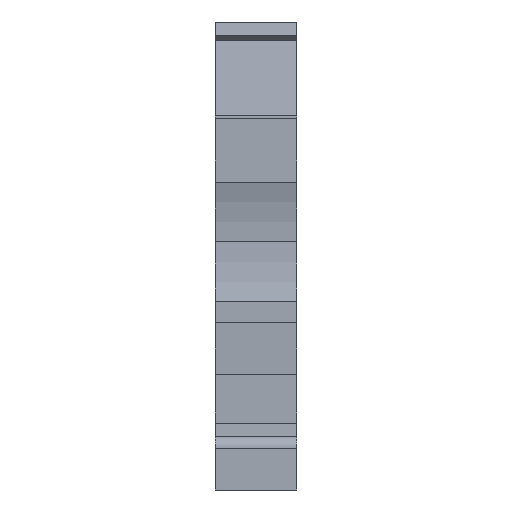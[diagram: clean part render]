
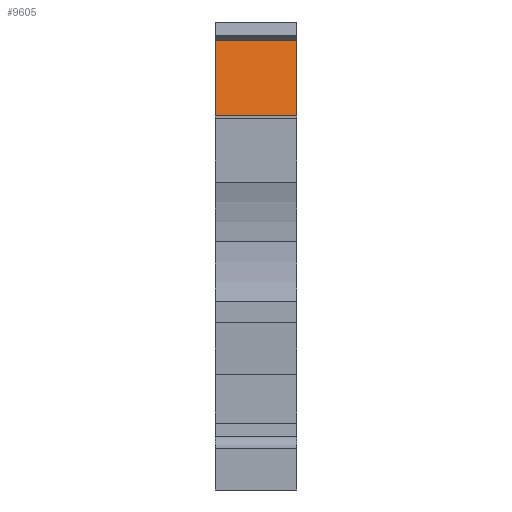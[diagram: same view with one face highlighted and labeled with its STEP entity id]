
A CAD part, front view. The second image highlights one B-rep face of the part: STEP entity #9605.
In plain terms, the highlighted planar face has unit normal (0, -0.985, 0.174).
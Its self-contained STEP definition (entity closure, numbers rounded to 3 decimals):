
#252=CARTESIAN_POINT('',(0.,1.584,27.808));
#253=VERTEX_POINT('',#252);
#260=CARTESIAN_POINT('',(0.,2.683,34.037));
#261=VERTEX_POINT('',#260);
#262=CARTESIAN_POINT('',(0.,2.683,34.037));
#263=DIRECTION('',(0.,-0.174,-0.985));
#264=VECTOR('',#263,6.325);
#265=LINE('',#262,#264);
#266=EDGE_CURVE('',#261,#253,#265,.T.);
#8095=CARTESIAN_POINT('',(6.15,2.683,34.037));
#8096=VERTEX_POINT('',#8095);
#8103=CARTESIAN_POINT('',(6.15,1.584,27.808));
#8104=VERTEX_POINT('',#8103);
#8105=CARTESIAN_POINT('',(6.15,1.584,27.808));
#8106=DIRECTION('',(-0.,0.174,0.985));
#8107=VECTOR('',#8106,6.325);
#8108=LINE('',#8105,#8107);
#8109=EDGE_CURVE('',#8104,#8096,#8108,.T.);
#9584=CARTESIAN_POINT('',(-0.619,2.608,33.614));
#9585=DIRECTION('',(0.,0.985,-0.174));
#9586=DIRECTION('',(0.,-0.174,-0.985));
#9587=AXIS2_PLACEMENT_3D('',#9584,#9585,#9586);
#9588=PLANE('',#9587);
#9589=CARTESIAN_POINT('',(6.15,1.584,27.808));
#9590=DIRECTION('',(-1.,0.,0.));
#9591=VECTOR('',#9590,6.15);
#9592=LINE('',#9589,#9591);
#9593=EDGE_CURVE('',#8104,#253,#9592,.T.);
#9594=ORIENTED_EDGE('',*,*,#9593,.F.);
#9595=ORIENTED_EDGE('',*,*,#8109,.T.);
#9596=CARTESIAN_POINT('',(6.15,2.683,34.037));
#9597=DIRECTION('',(-1.,0.,0.));
#9598=VECTOR('',#9597,6.15);
#9599=LINE('',#9596,#9598);
#9600=EDGE_CURVE('',#8096,#261,#9599,.T.);
#9601=ORIENTED_EDGE('',*,*,#9600,.T.);
#9602=ORIENTED_EDGE('',*,*,#266,.T.);
#9603=EDGE_LOOP('',(#9594,#9595,#9601,#9602));
#9604=FACE_BOUND('',#9603,.T.);
#9605=ADVANCED_FACE('',(#9604),#9588,.F.);
